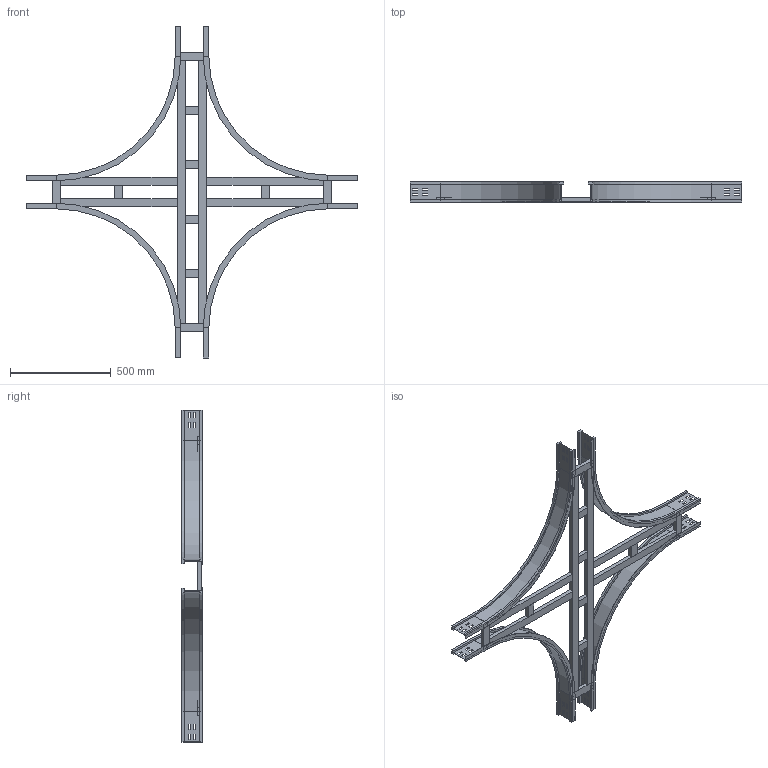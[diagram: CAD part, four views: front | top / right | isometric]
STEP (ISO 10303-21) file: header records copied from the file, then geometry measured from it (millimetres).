
FILE_DESCRIPTION (( 'STEP AP214' ), '1' );
FILE_NAME ('17S6D150.step', '2025-02-21T16:16:21', ( '' ), ( '' ), 'SwSTEP 2.0', 'SolidWorks 2023', '' );
FILE_SCHEMA (( 'AUTOMOTIVE_DESIGN' ));
Length unit declared in the file: millimetre
Products named in the file (7): TRAVERSINO_INTERMEDIO_X_R600+150; 17S6D150; TRAVERSINO_VERT_R600; TRAVERSINO_LONG._R600+150; LONGH.INTERNO 90°_H100_R600; TRAVERSINO_COPPIA_150; TRAVERSINO_150
Assembly tree (20 placements, depth 2):
  17S6D150
    LONGH.INTERNO 90°_H100_R600  x4
    TRAVERSINO_150  x4
    TRAVERSINO_LONG._R600+150  x2
    TRAVERSINO_INTERMEDIO_X_R600+150  x4
    TRAVERSINO_VERT_R600  x4
    TRAVERSINO_COPPIA_150  x2
Bounding box: 1650 x 100 x 1650 mm (x, y, z)
Volume: 7428751.9 mm3; surface area: 2215293 mm2
Topology: 20 solids, 20 shells, 376 faces, 912 edges, 576 vertices
Faces by surface type: plane 352, cylinder 24
Entity records: 3188 total; most frequent: CARTESIAN_POINT 515, DIRECTION 498, ORIENTED_EDGE 480, EDGE_CURVE 240, LINE 228, VECTOR 228, VERTEX_POINT 152, AXIS2_PLACEMENT_3D 135
